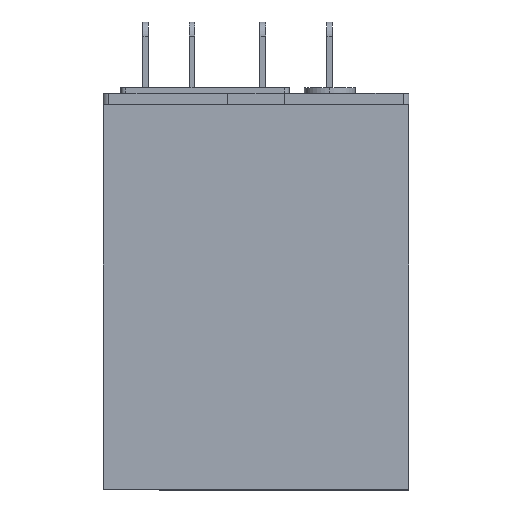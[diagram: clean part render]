
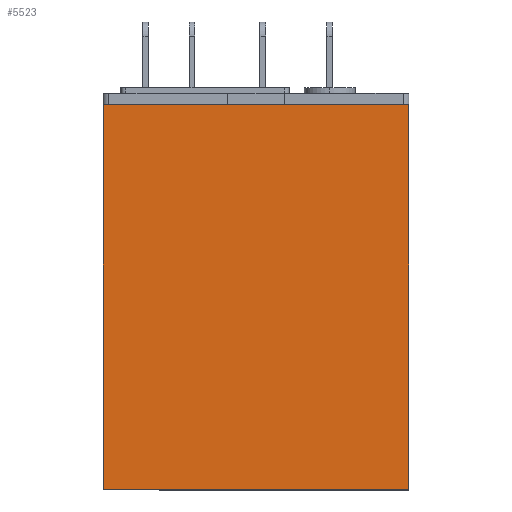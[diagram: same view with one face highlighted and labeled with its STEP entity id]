
A CAD part, top view. The second image highlights one B-rep face of the part: STEP entity #5523.
In plain terms, the highlighted planar face has unit normal (0, 0, 1).
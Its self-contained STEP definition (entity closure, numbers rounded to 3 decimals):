
#339 = ORIENTED_EDGE ( 'NONE', *, *, #6300, .F. ) ;
#388 = LINE ( 'NONE', #7930, #6142 ) ;
#677 = VERTEX_POINT ( 'NONE', #3683 ) ;
#876 = LINE ( 'NONE', #2369, #3861 ) ;
#1499 = FACE_OUTER_BOUND ( 'NONE', #2393, .T. ) ;
#1711 = EDGE_CURVE ( 'NONE', #677, #4895, #8562, .T. ) ;
#1717 = EDGE_CURVE ( 'NONE', #677, #4682, #876, .T. ) ;
#2278 = DIRECTION ( 'NONE',  ( 1., 0., 0. ) ) ;
#2293 = DIRECTION ( 'NONE',  ( 0., 0., -1. ) ) ;
#2369 = CARTESIAN_POINT ( 'NONE',  ( -13.5, 34., 10.5 ) ) ;
#2393 = EDGE_LOOP ( 'NONE', ( #6648, #339, #4870, #6957 ) ) ;
#2513 = DIRECTION ( 'NONE',  ( 1., 0., 0. ) ) ;
#2753 = CARTESIAN_POINT ( 'NONE',  ( 13.5, 34., 10.5 ) ) ;
#3622 = CARTESIAN_POINT ( 'NONE',  ( -13.5, 0., 10.5 ) ) ;
#3683 = CARTESIAN_POINT ( 'NONE',  ( -13.5, 34., 10.5 ) ) ;
#3861 = VECTOR ( 'NONE', #2513, 1000. ) ;
#4062 = DIRECTION ( 'NONE',  ( 0., -1., 0. ) ) ;
#4519 = CARTESIAN_POINT ( 'NONE',  ( -13.5, 34., 10.5 ) ) ;
#4682 = VERTEX_POINT ( 'NONE', #2753 ) ;
#4870 = ORIENTED_EDGE ( 'NONE', *, *, #1717, .F. ) ;
#4895 = VERTEX_POINT ( 'NONE', #5648 ) ;
#5011 = VERTEX_POINT ( 'NONE', #5896 ) ;
#5106 = LINE ( 'NONE', #3622, #6456 ) ;
#5321 = DIRECTION ( 'NONE',  ( -1., 0., 0. ) ) ;
#5523 = ADVANCED_FACE ( 'NONE', ( #1499 ), #6721, .F. ) ;
#5648 = CARTESIAN_POINT ( 'NONE',  ( -13.5, 0., 10.5 ) ) ;
#5896 = CARTESIAN_POINT ( 'NONE',  ( 13.5, 0., 10.5 ) ) ;
#6142 = VECTOR ( 'NONE', #4062, 1000. ) ;
#6148 = DIRECTION ( 'NONE',  ( 0., -1., 0. ) ) ;
#6288 = CARTESIAN_POINT ( 'NONE',  ( -13.5, 34., 10.5 ) ) ;
#6300 = EDGE_CURVE ( 'NONE', #4682, #5011, #388, .T. ) ;
#6456 = VECTOR ( 'NONE', #2278, 1000. ) ;
#6648 = ORIENTED_EDGE ( 'NONE', *, *, #7493, .T. ) ;
#6721 = PLANE ( 'NONE',  #8616 ) ;
#6957 = ORIENTED_EDGE ( 'NONE', *, *, #1711, .T. ) ;
#7493 = EDGE_CURVE ( 'NONE', #4895, #5011, #5106, .T. ) ;
#7930 = CARTESIAN_POINT ( 'NONE',  ( 13.5, 34., 10.5 ) ) ;
#8404 = VECTOR ( 'NONE', #6148, 1000. ) ;
#8562 = LINE ( 'NONE', #6288, #8404 ) ;
#8616 = AXIS2_PLACEMENT_3D ( 'NONE', #4519, #2293, #5321 ) ;
